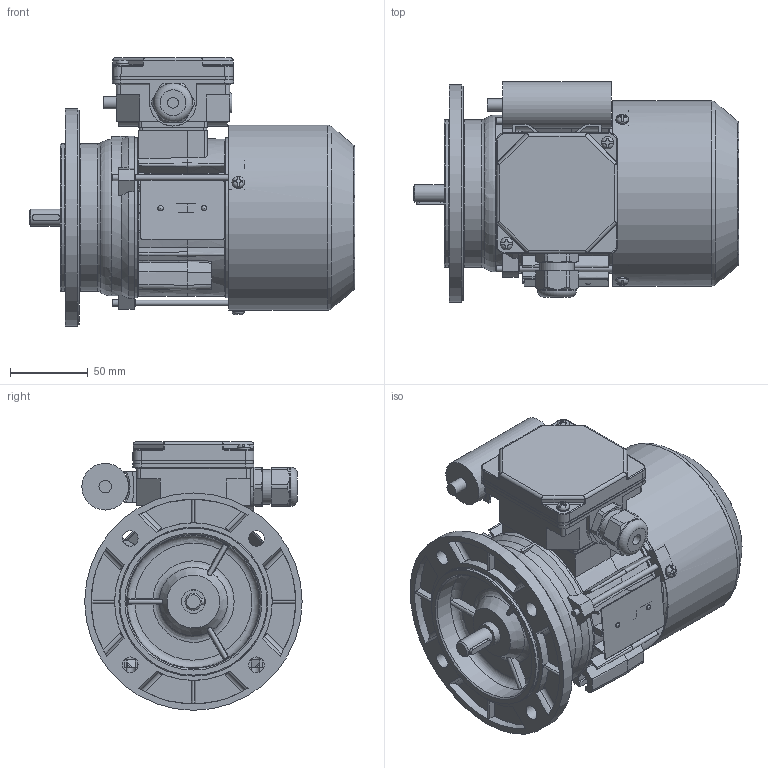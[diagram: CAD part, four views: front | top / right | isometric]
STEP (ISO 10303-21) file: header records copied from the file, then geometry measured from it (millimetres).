
FILE_DESCRIPTION(/* description */ ('Unknown'),/* implementation_level */ '2;1');
FILE_NAME(/* name */ '3SSIEK63-2A',/* time_stamp */ '2024-06-28T12:18:27+02:00',/* author */ ('Unknown'),/* organization */ ('Unknown'),/* preprocessor_version */ 'ST-DEVELOPER v16.7',/* originating_system */ 'Solid Edge',/* authorisation */ 'Unknown');
FILE_SCHEMA (('AUTOMOTIVE_DESIGN {1 0 10303 214 3 1 1}'));
Length unit declared in the file: millimetre
Products named in the file (1): Czêœæ19
Bounding box: 209.49 x 141.82 x 173 mm (x, y, z)
Volume: 564095.8 mm3; surface area: 335409.6 mm2
Topology: 3 solids, 3 shells, 1827 faces, 5129 edges, 3343 vertices
Faces by surface type: plane 945, cylinder 539, torus 116, cone 112, bspline 94, sphere 21
Full cylindrical faces by diameter (mm): 2.4 x2, 3 x1, 3.7 x7, 4 x8, 4.5 x5, 4.6 x1, 4.8 x2, 5 x2, 6.5 x1, 7 x4, 7.999 x1, 8 x6, 10 x4, 10.999 x1, 12.899 x1, 13.099 x1, 14.998 x2, 15.4 x2, 18.998 x2, 19.498 x1, 19.998 x1, 20.098 x1, 21.518 x4, 22.3 x1, 25 x1, 28 x2, 28.48 x4, 29.997 x1, 31 x2, 35 x3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
Entity records: 73706 total; most frequent: CARTESIAN_POINT 15714, ORIENTED_EDGE 9604, DIRECTION 9024, EDGE_CURVE 4802, AXIS2_PLACEMENT_3D 3320, VERTEX_POINT 3221, LINE 2384, VECTOR 2384
